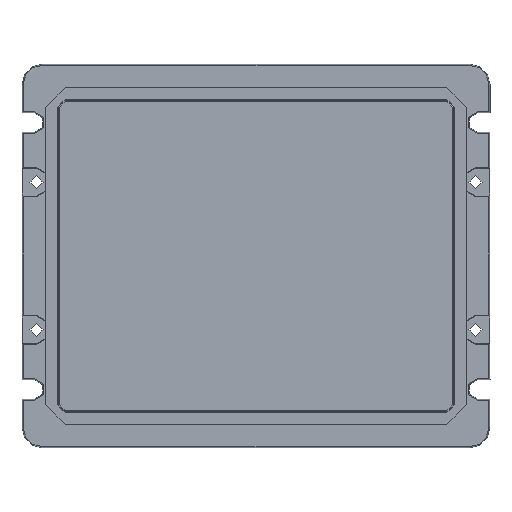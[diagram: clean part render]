
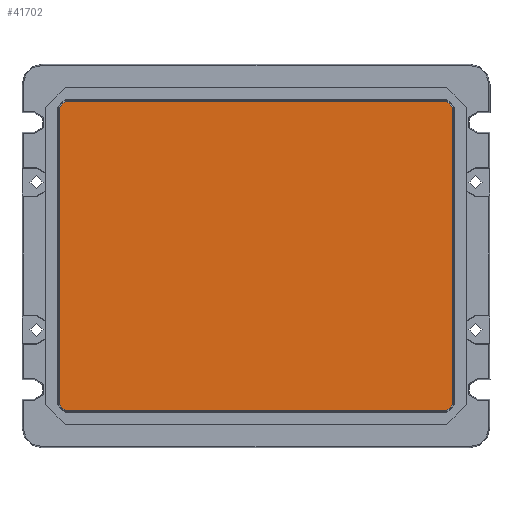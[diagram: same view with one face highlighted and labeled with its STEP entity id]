
A CAD part, left-side view. The second image highlights one B-rep face of the part: STEP entity #41702.
In plain terms, the highlighted planar face has unit normal (-1, 0, 0).
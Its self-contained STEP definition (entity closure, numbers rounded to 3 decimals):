
#914=LINE($,#62305,#5142);
#915=LINE($,#62343,#5143);
#916=LINE($,#62380,#5144);
#917=LINE($,#62417,#5145);
#5142=VECTOR($,#49373,7.244);
#5143=VECTOR($,#49380,9.294);
#5144=VECTOR($,#49385,7.244);
#5145=VECTOR($,#49392,9.294);
#8754=B_SPLINE_CURVE_WITH_KNOTS($,3,(#62286,#62287,#62288,#62289,#62290,
#62291,#62292,#62293,#62294,#62295,#62296,#62297,#62298,#62299,#62300,#62301),
 .UNSPECIFIED.,.F.,.F.,(4,3,3,3,3,4),(0.,0.2,0.4,0.6,0.8,1.),
 .UNSPECIFIED.);
#8755=B_SPLINE_CURVE_WITH_KNOTS($,3,(#62324,#62325,#62326,#62327,#62328,
#62329,#62330,#62331,#62332,#62333,#62334,#62335,#62336,#62337,#62338,#62339),
 .UNSPECIFIED.,.F.,.F.,(4,3,3,3,3,4),(0.,0.2,0.4,0.6,0.8,1.),
 .UNSPECIFIED.);
#8756=B_SPLINE_CURVE_WITH_KNOTS($,3,(#62361,#62362,#62363,#62364,#62365,
#62366,#62367,#62368,#62369,#62370,#62371,#62372,#62373,#62374,#62375,#62376),
 .UNSPECIFIED.,.F.,.F.,(4,3,3,3,3,4),(0.,0.2,0.4,0.6,0.8,1.),
 .UNSPECIFIED.);
#8757=B_SPLINE_CURVE_WITH_KNOTS($,3,(#62399,#62400,#62401,#62402,#62403,
#62404,#62405,#62406,#62407,#62408,#62409,#62410,#62411,#62412,#62413,#62414),
 .UNSPECIFIED.,.F.,.F.,(4,3,3,3,3,4),(0.,0.2,0.4,0.6,0.8,1.),
 .UNSPECIFIED.);
#10962=FACE_OUTER_BOUND($,#13716,.T.);
#13716=EDGE_LOOP($,(#29563,#29564,#29565,#29566,#29567,#29568,#29569,#29570));
#19216=VERTEX_POINT($,#62282);
#19217=VERTEX_POINT($,#62284);
#19218=VERTEX_POINT($,#62303);
#19219=VERTEX_POINT($,#62322);
#19220=VERTEX_POINT($,#62341);
#19221=VERTEX_POINT($,#62360);
#19222=VERTEX_POINT($,#62379);
#19223=VERTEX_POINT($,#62398);
#23412=EDGE_CURVE($,#19217,#19216,#8754,.T.);
#23414=EDGE_CURVE($,#19216,#19218,#914,.T.);
#23416=EDGE_CURVE($,#19218,#19219,#8755,.T.);
#23418=EDGE_CURVE($,#19219,#19220,#915,.T.);
#23419=EDGE_CURVE($,#19220,#19221,#8756,.T.);
#23421=EDGE_CURVE($,#19221,#19222,#916,.T.);
#23423=EDGE_CURVE($,#19222,#19223,#8757,.T.);
#23425=EDGE_CURVE($,#19223,#19217,#917,.T.);
#29563=ORIENTED_EDGE($,*,*,#23412,.F.);
#29564=ORIENTED_EDGE($,*,*,#23425,.F.);
#29565=ORIENTED_EDGE($,*,*,#23423,.F.);
#29566=ORIENTED_EDGE($,*,*,#23421,.F.);
#29567=ORIENTED_EDGE($,*,*,#23419,.F.);
#29568=ORIENTED_EDGE($,*,*,#23418,.F.);
#29569=ORIENTED_EDGE($,*,*,#23416,.F.);
#29570=ORIENTED_EDGE($,*,*,#23414,.F.);
#39799=PLANE($,#44530);
#41702=ADVANCED_FACE($,(#10962),#39799,.T.);
#44530=AXIS2_PLACEMENT_3D($,#62418,#49393,#49394);
#49373=DIRECTION($,(0.,0.,-1.));
#49380=DIRECTION($,(0.,1.,0.));
#49385=DIRECTION($,(0.,0.,1.));
#49392=DIRECTION($,(0.,-1.,0.));
#49393=DIRECTION('center_axis',(-1.,0.,0.));
#49394=DIRECTION('ref_axis',(0.,0.,1.));
#62282=CARTESIAN_POINT('',(-7.613,-4.992,6.918));
#62284=CARTESIAN_POINT('',(-7.613,-4.852,7.058));
#62286=CARTESIAN_POINT('Ctrl Pts',(-7.613,-4.852,7.058));
#62287=CARTESIAN_POINT('Ctrl Pts',(-7.613,-4.867,7.058));
#62288=CARTESIAN_POINT('Ctrl Pts',(-7.613,-4.882,
7.056));
#62289=CARTESIAN_POINT('Ctrl Pts',(-7.613,-4.895,7.052));
#62290=CARTESIAN_POINT('Ctrl Pts',(-7.613,-4.909,
7.047));
#62291=CARTESIAN_POINT('Ctrl Pts',(-7.613,-4.923,
7.04));
#62292=CARTESIAN_POINT('Ctrl Pts',(-7.613,-4.934,
7.032));
#62293=CARTESIAN_POINT('Ctrl Pts',(-7.613,-4.946,7.023));
#62294=CARTESIAN_POINT('Ctrl Pts',(-7.613,-4.957,
7.013));
#62295=CARTESIAN_POINT('Ctrl Pts',(-7.613,-4.965,
7.001));
#62296=CARTESIAN_POINT('Ctrl Pts',(-7.613,-4.974,
6.989));
#62297=CARTESIAN_POINT('Ctrl Pts',(-7.613,-4.981,6.975));
#62298=CARTESIAN_POINT('Ctrl Pts',(-7.613,-4.985,
6.962));
#62299=CARTESIAN_POINT('Ctrl Pts',(-7.613,-4.99,
6.948));
#62300=CARTESIAN_POINT('Ctrl Pts',(-7.613,-4.992,
6.933));
#62301=CARTESIAN_POINT('Ctrl Pts',(-7.613,-4.992,
6.918));
#62303=CARTESIAN_POINT('',(-7.613,-4.992,-0.326));
#62305=CARTESIAN_POINT($,(-7.613,-4.992,6.918));
#62322=CARTESIAN_POINT('',(-7.613,-4.852,-0.466));
#62324=CARTESIAN_POINT('Ctrl Pts',(-7.613,-4.992,-0.326));
#62325=CARTESIAN_POINT('Ctrl Pts',(-7.613,-4.992,-0.341));
#62326=CARTESIAN_POINT('Ctrl Pts',(-7.613,-4.99,
-0.355));
#62327=CARTESIAN_POINT('Ctrl Pts',(-7.613,-4.985,-0.369));
#62328=CARTESIAN_POINT('Ctrl Pts',(-7.613,-4.981,
-0.383));
#62329=CARTESIAN_POINT('Ctrl Pts',(-7.613,-4.974,
-0.396));
#62330=CARTESIAN_POINT('Ctrl Pts',(-7.613,-4.965,
-0.408));
#62331=CARTESIAN_POINT('Ctrl Pts',(-7.613,-4.957,
-0.42));
#62332=CARTESIAN_POINT('Ctrl Pts',(-7.613,-4.946,
-0.43));
#62333=CARTESIAN_POINT('Ctrl Pts',(-7.613,-4.934,-0.439));
#62334=CARTESIAN_POINT('Ctrl Pts',(-7.613,-4.923,-0.448));
#62335=CARTESIAN_POINT('Ctrl Pts',(-7.613,-4.909,
-0.454));
#62336=CARTESIAN_POINT('Ctrl Pts',(-7.613,-4.895,
-0.459));
#62337=CARTESIAN_POINT('Ctrl Pts',(-7.613,-4.882,
-0.463));
#62338=CARTESIAN_POINT('Ctrl Pts',(-7.613,-4.867,-0.466));
#62339=CARTESIAN_POINT('Ctrl Pts',(-7.613,-4.852,
-0.466));
#62341=CARTESIAN_POINT('',(-7.613,4.442,-0.466));
#62343=CARTESIAN_POINT($,(-7.613,-4.852,-0.466));
#62360=CARTESIAN_POINT('',(-7.613,4.582,-0.326));
#62361=CARTESIAN_POINT('Ctrl Pts',(-7.613,4.442,-0.466));
#62362=CARTESIAN_POINT('Ctrl Pts',(-7.613,4.457,-0.466));
#62363=CARTESIAN_POINT('Ctrl Pts',(-7.613,4.471,-0.463));
#62364=CARTESIAN_POINT('Ctrl Pts',(-7.613,4.485,-0.459));
#62365=CARTESIAN_POINT('Ctrl Pts',(-7.613,4.499,-0.454));
#62366=CARTESIAN_POINT('Ctrl Pts',(-7.613,4.512,-0.448));
#62367=CARTESIAN_POINT('Ctrl Pts',(-7.613,4.524,-0.439));
#62368=CARTESIAN_POINT('Ctrl Pts',(-7.613,4.536,-0.43));
#62369=CARTESIAN_POINT('Ctrl Pts',(-7.613,4.547,-0.42));
#62370=CARTESIAN_POINT('Ctrl Pts',(-7.613,4.555,-0.408));
#62371=CARTESIAN_POINT('Ctrl Pts',(-7.613,4.564,-0.396));
#62372=CARTESIAN_POINT('Ctrl Pts',(-7.613,4.571,-0.383));
#62373=CARTESIAN_POINT('Ctrl Pts',(-7.613,4.575,-0.369));
#62374=CARTESIAN_POINT('Ctrl Pts',(-7.613,4.58,-0.355));
#62375=CARTESIAN_POINT('Ctrl Pts',(-7.613,4.582,-0.341));
#62376=CARTESIAN_POINT('Ctrl Pts',(-7.613,4.582,-0.326));
#62379=CARTESIAN_POINT('',(-7.613,4.582,6.918));
#62380=CARTESIAN_POINT($,(-7.613,4.582,-0.326));
#62398=CARTESIAN_POINT('',(-7.613,4.442,7.058));
#62399=CARTESIAN_POINT('Ctrl Pts',(-7.613,4.582,6.918));
#62400=CARTESIAN_POINT('Ctrl Pts',(-7.613,4.582,6.933));
#62401=CARTESIAN_POINT('Ctrl Pts',(-7.613,4.58,6.948));
#62402=CARTESIAN_POINT('Ctrl Pts',(-7.613,4.575,6.962));
#62403=CARTESIAN_POINT('Ctrl Pts',(-7.613,4.571,6.975));
#62404=CARTESIAN_POINT('Ctrl Pts',(-7.613,4.564,6.989));
#62405=CARTESIAN_POINT('Ctrl Pts',(-7.613,4.555,7.001));
#62406=CARTESIAN_POINT('Ctrl Pts',(-7.613,4.547,7.013));
#62407=CARTESIAN_POINT('Ctrl Pts',(-7.613,4.536,7.023));
#62408=CARTESIAN_POINT('Ctrl Pts',(-7.613,4.524,7.032));
#62409=CARTESIAN_POINT('Ctrl Pts',(-7.613,4.512,7.04));
#62410=CARTESIAN_POINT('Ctrl Pts',(-7.613,4.499,7.047));
#62411=CARTESIAN_POINT('Ctrl Pts',(-7.613,4.485,7.052));
#62412=CARTESIAN_POINT('Ctrl Pts',(-7.613,4.471,7.056));
#62413=CARTESIAN_POINT('Ctrl Pts',(-7.613,4.457,7.058));
#62414=CARTESIAN_POINT('Ctrl Pts',(-7.613,4.442,7.058));
#62417=CARTESIAN_POINT($,(-7.613,4.442,7.058));
#62418=CARTESIAN_POINT('Origin',(-7.613,4.445,6.921));
